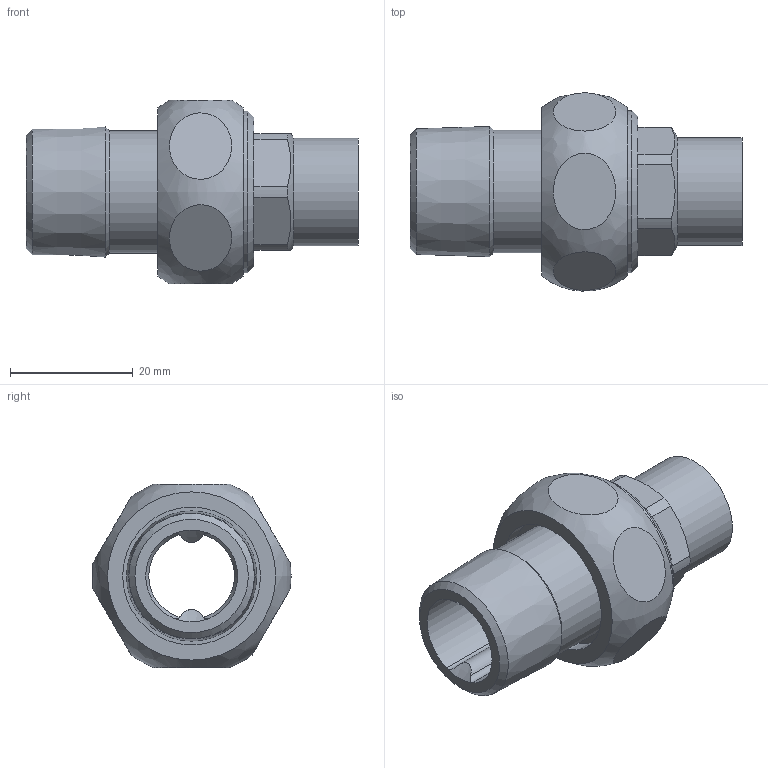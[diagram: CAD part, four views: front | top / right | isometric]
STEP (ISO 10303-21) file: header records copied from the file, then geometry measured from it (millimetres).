
FILE_DESCRIPTION((''),'2;1');
FILE_NAME('\\Lg50001\groups\SANHA Legnica\Engineering\Public\RYSUNKI\SANHA POLSKA\4341g\step\14341g_15-12(1).stp','2010-06-10T13:37:21',('pajchrowski'),(''),'Autodesk Inventor 2009','Autodesk Inventor 2009','');
FILE_SCHEMA(('AUTOMOTIVE_DESIGN { 1 0 10303 214 1 1 1 1 }'));
Length unit declared in the file: millimetre
Products named in the file (4): 14341g_15-12(1); 14382_12-34(2); 14374_34(2); 14380_15-34(0)
Assembly tree (3 placements, depth 2):
  14341g_15-12(1)
    14382_12-34(2)
    14374_34(2)
    14380_15-34(0)
Bounding box: 54.2 x 32.35 x 30 mm (x, y, z)
Volume: 13619.2 mm3; surface area: 10325.9 mm2
Topology: 3 solids, 3 shells, 58 faces, 120 edges, 78 vertices
Faces by surface type: cylinder 23, plane 22, cone 11, torus 1, bspline 1
Full cylindrical faces by diameter (mm): 14 x1, 15 x1, 17.6 x1, 20 x1, 21 x1, 22.5 x1, 23.5 x1, 24.117 x1, 26.441 x1
Entity records: 2695 total; most frequent: CARTESIAN_POINT 1437, DIRECTION 246, ORIENTED_EDGE 200, AXIS2_PLACEMENT_3D 110, EDGE_CURVE 100, EDGE_LOOP 92, VERTEX_POINT 76, FACE_OUTER_BOUND 58
